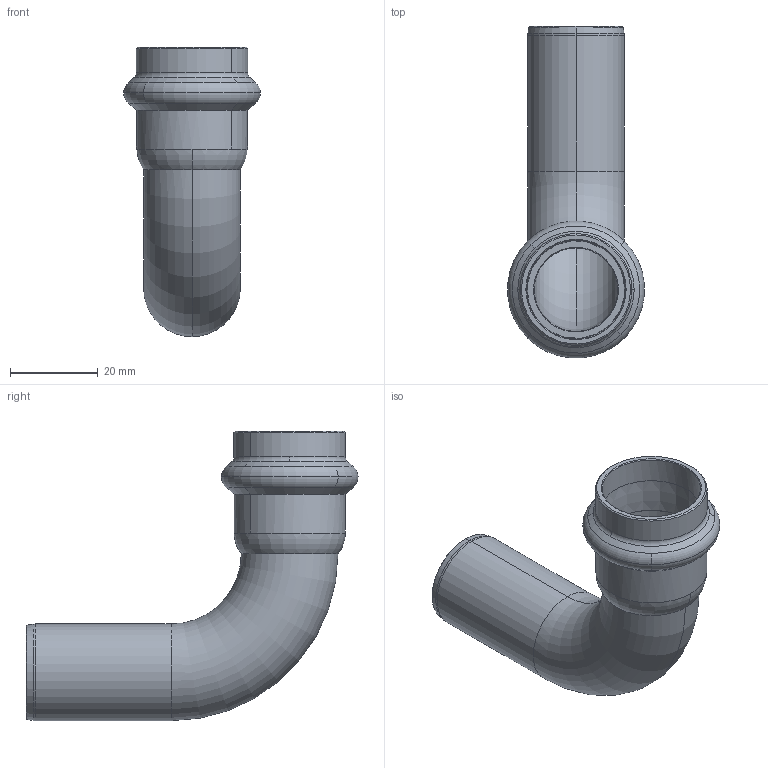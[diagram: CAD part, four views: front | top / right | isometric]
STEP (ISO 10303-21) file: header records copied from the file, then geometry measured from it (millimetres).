
FILE_DESCRIPTION(('CoCreate Modeling STEP Export'),'2;1');
FILE_NAME('8001VW22.stp','2013-01-29T13:57:20',(''),(''),'CoCreate Modeling STEP processor for AP214 (Solid Model)','CoCreate Modeling 17.00A 17-Jun-2010 (C) Parametric Technology GmbH','');
FILE_SCHEMA(('AUTOMOTIVE_DESIGN { 1 0 10303 214 1 1 1 1 }'));
Length unit declared in the file: millimetre
Products named in the file (2): 8001VW22
Assembly tree (1 placements, depth 2):
  8001VW22
    8001VW22
Bounding box: 31.08 x 75.54 x 65.84 mm (x, y, z)
Volume: 11837.2 mm3; surface area: 14560.8 mm2
Topology: 1 solids, 1 shells, 54 faces, 143 edges, 93 vertices
Faces by surface type: torus 20, cone 16, cylinder 14, plane 4
Entity records: 1924 total; most frequent: CARTESIAN_POINT 775, ORIENTED_EDGE 286, DIRECTION 190, EDGE_CURVE 143, VERTEX_POINT 93, AXIS2_PLACEMENT_3D 80, EDGE_LOOP 58, FACE_OUTER_BOUND 54
